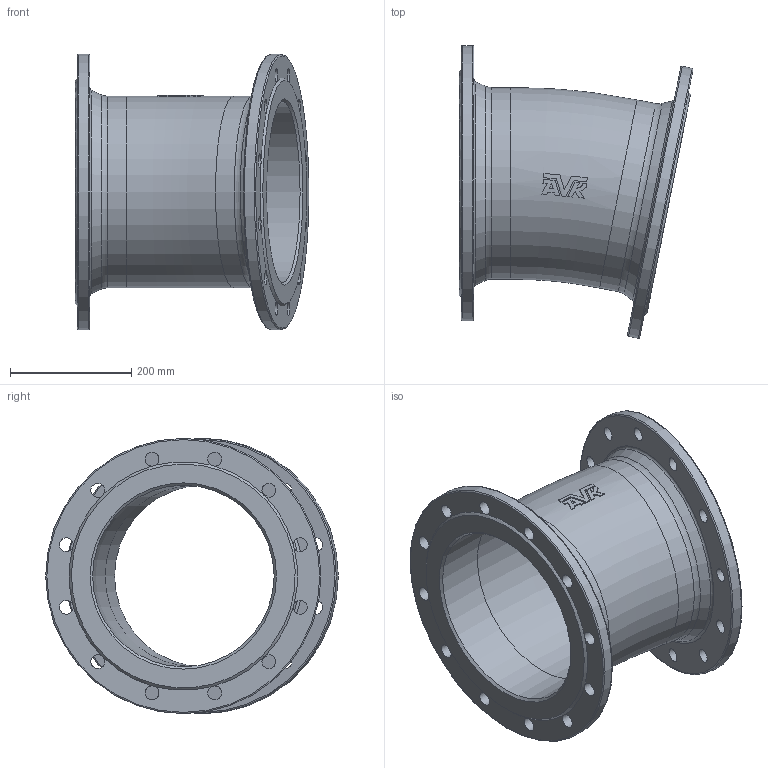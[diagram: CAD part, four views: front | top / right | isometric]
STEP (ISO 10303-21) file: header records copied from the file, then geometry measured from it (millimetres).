
FILE_DESCRIPTION (( 'STEP AP203' ), '1' );
FILE_NAME ('O_712_0110_DN300_0X_REV01.step', '2024-08-15T08:54:46', ( '' ), ( '' ), 'SwSTEP 2.0', 'SolidWorks 2022', '' );
FILE_SCHEMA (( 'CONFIG_CONTROL_DESIGN' ));
Length unit declared in the file: millimetre
Products named in the file (1): O_712_0110_DN300_0X_REV01
Bounding box: 386.75 x 483.62 x 455 mm (x, y, z)
Volume: 6607121.8 mm3; surface area: 1031461.3 mm2
Topology: 1 solids, 1 shells, 93 faces, 312 edges, 205 vertices
Faces by surface type: plane 41, cylinder 32, torus 14, cone 6
Full cylindrical faces by diameter (mm): 23 x24, 300 x2, 317 x2, 455 x2
Entity records: 3457 total; most frequent: CARTESIAN_POINT 1090, ORIENTED_EDGE 466, DIRECTION 421, EDGE_CURVE 233, AXIS2_PLACEMENT_3D 192, EDGE_LOOP 173, VERTEX_POINT 172, FACE_OUTER_BOUND 133
